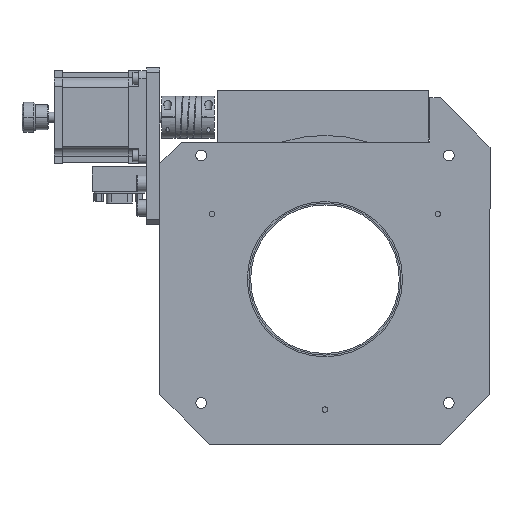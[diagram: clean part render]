
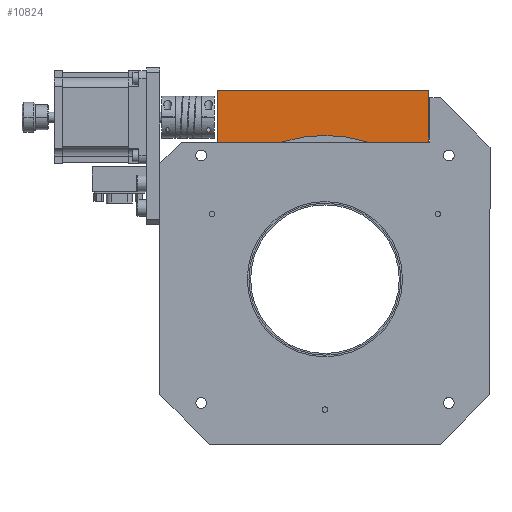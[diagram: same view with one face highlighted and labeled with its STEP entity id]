
A CAD part, front view. The second image highlights one B-rep face of the part: STEP entity #10824.
In plain terms, the highlighted planar face has unit normal (0, 1, 0).
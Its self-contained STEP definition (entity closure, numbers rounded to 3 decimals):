
#1788 = EDGE_LOOP ( 'NONE', ( #5714, #5876, #5841, #5721, #5828, #5846 ) ) ;
#5714 = ORIENTED_EDGE ( 'NONE', *, *, #9048, .T. ) ;
#5721 = ORIENTED_EDGE ( 'NONE', *, *, #9051, .F. ) ;
#5828 = ORIENTED_EDGE ( 'NONE', *, *, #9050, .F. ) ;
#5841 = ORIENTED_EDGE ( 'NONE', *, *, #9035, .T. ) ;
#5846 = ORIENTED_EDGE ( 'NONE', *, *, #9046, .F. ) ;
#5876 = ORIENTED_EDGE ( 'NONE', *, *, #9019, .F. ) ;
#7302 = CARTESIAN_POINT ( 'NONE',  ( -65., 1., 83.1 ) ) ;
#7311 = CARTESIAN_POINT ( 'NONE',  ( 26.077, 1., 83.1 ) ) ;
#7380 = CARTESIAN_POINT ( 'NONE',  ( 63., 1., 114.1 ) ) ;
#7394 = CARTESIAN_POINT ( 'NONE',  ( -65., 1., 114.1 ) ) ;
#7416 = CARTESIAN_POINT ( 'NONE',  ( 63., 1., 83.1 ) ) ;
#7419 = CARTESIAN_POINT ( 'NONE',  ( -26.077, 1., 83.1 ) ) ;
#7620 = VERTEX_POINT ( 'NONE', #7416 ) ;
#7622 = VERTEX_POINT ( 'NONE', #7419 ) ;
#7642 = VERTEX_POINT ( 'NONE', #7394 ) ;
#7646 = VERTEX_POINT ( 'NONE', #7380 ) ;
#7720 = VERTEX_POINT ( 'NONE', #7311 ) ;
#7723 = VERTEX_POINT ( 'NONE', #7302 ) ;
#9019 = EDGE_CURVE ( 'NONE', #7646, #7642, #18844, .T. ) ;
#9035 = EDGE_CURVE ( 'NONE', #7646, #7620, #18854, .T. ) ;
#9046 = EDGE_CURVE ( 'NONE', #7723, #7622, #18877, .T. ) ;
#9048 = EDGE_CURVE ( 'NONE', #7723, #7642, #18880, .T. ) ;
#9050 = EDGE_CURVE ( 'NONE', #7622, #7720, #18885, .T. ) ;
#9051 = EDGE_CURVE ( 'NONE', #7720, #7620, #18884, .T. ) ;
#10824 = ADVANCED_FACE ( 'NONE', ( #24375 ), #22923, .F. ) ;
#18838 = VECTOR ( 'NONE', #19462, 1000. ) ;
#18844 = LINE ( 'NONE', #19452, #18838 ) ;
#18854 = LINE ( 'NONE', #19615, #18866 ) ;
#18866 = VECTOR ( 'NONE', #19619, 1000. ) ;
#18876 = VECTOR ( 'NONE', #19967, 1000. ) ;
#18877 = LINE ( 'NONE', #19966, #18876 ) ;
#18880 = LINE ( 'NONE', #19970, #18881 ) ;
#18881 = VECTOR ( 'NONE', #19971, 1000. ) ;
#18883 = VECTOR ( 'NONE', #20073, 1000. ) ;
#18884 = LINE ( 'NONE', #19972, #18883 ) ;
#18885 = CIRCLE ( 'NONE', #27170, 87. ) ;
#19452 = CARTESIAN_POINT ( 'NONE',  ( 63., 1., 114.1 ) ) ;
#19462 = DIRECTION ( 'NONE',  ( -1., 0., 0. ) ) ;
#19615 = CARTESIAN_POINT ( 'NONE',  ( 63., 1., 114.1 ) ) ;
#19619 = DIRECTION ( 'NONE',  ( 0., 0., -1. ) ) ;
#19966 = CARTESIAN_POINT ( 'NONE',  ( 63., 1., 83.1 ) ) ;
#19967 = DIRECTION ( 'NONE',  ( 1., 0., 0. ) ) ;
#19970 = CARTESIAN_POINT ( 'NONE',  ( -65., 1., 114.1 ) ) ;
#19971 = DIRECTION ( 'NONE',  ( 0., 0., 1. ) ) ;
#19972 = CARTESIAN_POINT ( 'NONE',  ( 63., 1., 83.1 ) ) ;
#20068 = CARTESIAN_POINT ( 'NONE',  ( 0., 1., 0.1 ) ) ;
#20070 = DIRECTION ( 'NONE',  ( 0., 1., 0. ) ) ;
#20071 = DIRECTION ( 'NONE',  ( -1., 0., 0. ) ) ;
#20073 = DIRECTION ( 'NONE',  ( 1., 0., 0. ) ) ;
#22923 = PLANE ( 'NONE',  #23715 ) ;
#22926 = CARTESIAN_POINT ( 'NONE',  ( 63., 1., 114.1 ) ) ;
#22931 = DIRECTION ( 'NONE',  ( 0., -1., 0. ) ) ;
#22932 = DIRECTION ( 'NONE',  ( 1., 0., 0. ) ) ;
#23715 = AXIS2_PLACEMENT_3D ( 'NONE', #22926, #22931, #22932 ) ;
#24375 = FACE_OUTER_BOUND ( 'NONE', #1788, .T. ) ;
#27170 = AXIS2_PLACEMENT_3D ( 'NONE', #20068, #20070, #20071 ) ;
